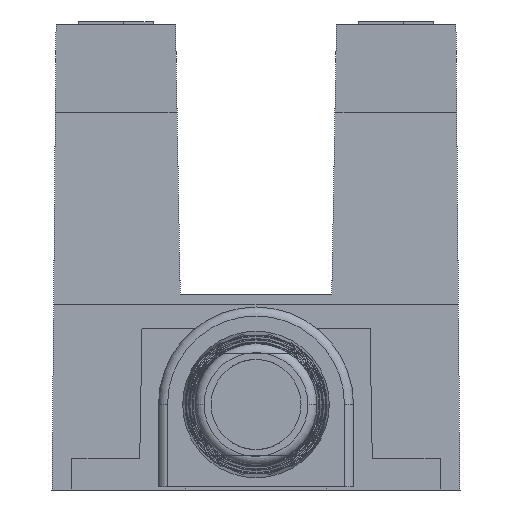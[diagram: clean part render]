
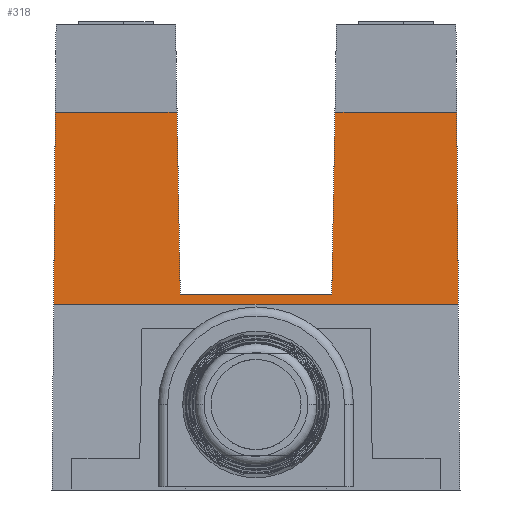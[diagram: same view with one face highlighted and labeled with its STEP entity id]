
A CAD part, front view. The second image highlights one B-rep face of the part: STEP entity #318.
In plain terms, the highlighted planar face has unit normal (0, -1, 0.031).
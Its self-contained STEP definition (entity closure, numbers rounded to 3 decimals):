
#318=ADVANCED_FACE('',(#570),#458,.F.);
#458=PLANE('',#2895);
#570=FACE_OUTER_BOUND('',#711,.T.);
#711=EDGE_LOOP('',(#996,#997,#998,#999,#1000,#1001,#1002,#1003,#1004,#1005));
#996=ORIENTED_EDGE('',*,*,#2020,.T.);
#997=ORIENTED_EDGE('',*,*,#2017,.T.);
#998=ORIENTED_EDGE('',*,*,#2030,.F.);
#999=ORIENTED_EDGE('',*,*,#1956,.F.);
#1000=ORIENTED_EDGE('',*,*,#2031,.T.);
#1001=ORIENTED_EDGE('',*,*,#1946,.T.);
#1002=ORIENTED_EDGE('',*,*,#2032,.F.);
#1003=ORIENTED_EDGE('',*,*,#1995,.F.);
#1004=ORIENTED_EDGE('',*,*,#2019,.T.);
#1005=ORIENTED_EDGE('',*,*,#2029,.F.);
#1680=VERTEX_POINT('',#3828);
#1681=VERTEX_POINT('',#3829);
#1690=VERTEX_POINT('',#3848);
#1691=VERTEX_POINT('',#3850);
#1724=VERTEX_POINT('',#3925);
#1725=VERTEX_POINT('',#3927);
#1742=VERTEX_POINT('',#3969);
#1743=VERTEX_POINT('',#3971);
#1744=VERTEX_POINT('',#3975);
#1745=VERTEX_POINT('',#3977);
#1946=EDGE_CURVE('',#1680,#1681,#2340,.T.);
#1956=EDGE_CURVE('',#1690,#1691,#2350,.T.);
#1995=EDGE_CURVE('',#1724,#1725,#2385,.T.);
#2017=EDGE_CURVE('',#1743,#1742,#2405,.T.);
#2019=EDGE_CURVE('',#1724,#1744,#2407,.T.);
#2020=EDGE_CURVE('',#1745,#1743,#2408,.T.);
#2029=EDGE_CURVE('',#1745,#1744,#2417,.T.);
#2030=EDGE_CURVE('',#1691,#1742,#2418,.T.);
#2031=EDGE_CURVE('',#1690,#1680,#2419,.T.);
#2032=EDGE_CURVE('',#1725,#1681,#2420,.T.);
#2340=LINE('',#3827,#2613);
#2350=LINE('',#3849,#2623);
#2385=LINE('',#3926,#2658);
#2405=LINE('',#3970,#2678);
#2407=LINE('',#3974,#2680);
#2408=LINE('',#3976,#2681);
#2417=LINE('',#3993,#2690);
#2418=LINE('',#3995,#2691);
#2419=LINE('',#3996,#2692);
#2420=LINE('',#3997,#2693);
#2613=VECTOR('',#3108,1.);
#2623=VECTOR('',#3120,1.);
#2658=VECTOR('',#3171,1.);
#2678=VECTOR('',#3203,1.);
#2680=VECTOR('',#3207,1.);
#2681=VECTOR('',#3208,1.);
#2690=VECTOR('',#3221,1.);
#2691=VECTOR('',#3224,1.);
#2692=VECTOR('',#3225,1.);
#2693=VECTOR('',#3226,1.);
#2895=AXIS2_PLACEMENT_3D('',#3998,#3227,#3228);
#3108=DIRECTION('',(-0.017,0.031,0.999));
#3120=DIRECTION('',(0.017,0.031,0.999));
#3171=DIRECTION('',(0.009,0.031,0.999));
#3203=DIRECTION('',(-0.009,0.031,0.999));
#3207=DIRECTION('',(1.,0.,0.));
#3208=DIRECTION('',(1.,0.,0.));
#3221=DIRECTION('',(-1.,0.,0.));
#3224=DIRECTION('',(1.,0.,0.));
#3225=DIRECTION('',(-1.,0.,0.));
#3226=DIRECTION('',(1.,0.,0.));
#3227=DIRECTION('',(0.,1.,-0.031));
#3228=DIRECTION('',(0.,0.031,1.));
#3827=CARTESIAN_POINT('',(-2.525,-1.141,-1.25));
#3828=CARTESIAN_POINT('',(-2.525,-1.141,-1.25));
#3829=CARTESIAN_POINT('',(-2.631,-0.95,4.85));
#3848=CARTESIAN_POINT('',(2.525,-1.141,-1.25));
#3849=CARTESIAN_POINT('',(2.525,-1.141,-1.25));
#3850=CARTESIAN_POINT('',(2.631,-0.95,4.85));
#3925=CARTESIAN_POINT('',(-6.746,-1.15,-1.55));
#3926=CARTESIAN_POINT('',(-6.746,-1.15,-1.55));
#3927=CARTESIAN_POINT('',(-6.69,-0.95,4.85));
#3969=CARTESIAN_POINT('',(6.69,-0.95,4.85));
#3970=CARTESIAN_POINT('',(6.746,-1.15,-1.55));
#3971=CARTESIAN_POINT('',(6.746,-1.15,-1.55));
#3974=CARTESIAN_POINT('',(-6.746,-1.15,-1.55));
#3975=CARTESIAN_POINT('',(-2.05,-1.15,-1.55));
#3976=CARTESIAN_POINT('',(2.05,-1.15,-1.55));
#3977=CARTESIAN_POINT('',(2.05,-1.15,-1.55));
#3993=CARTESIAN_POINT('',(2.05,-1.15,-1.55));
#3995=CARTESIAN_POINT('',(2.631,-0.95,4.85));
#3996=CARTESIAN_POINT('',(2.525,-1.141,-1.25));
#3997=CARTESIAN_POINT('',(-6.69,-0.95,4.85));
#3998=CARTESIAN_POINT('',(-10.,-1.15,-1.55));
